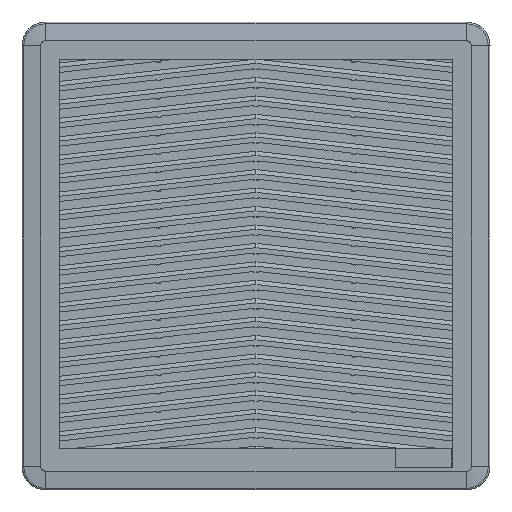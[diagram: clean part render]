
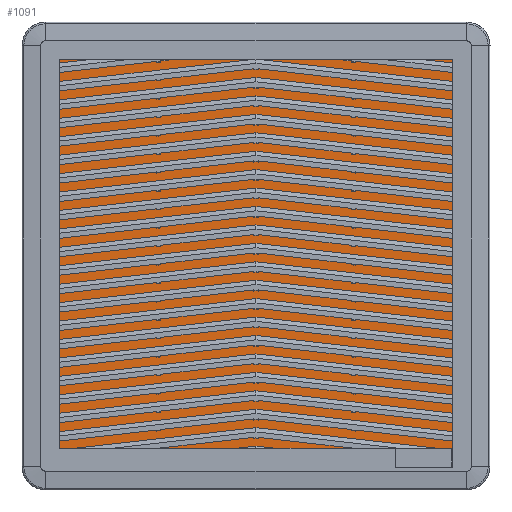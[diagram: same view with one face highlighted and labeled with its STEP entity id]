
A CAD part, front view. The second image highlights one B-rep face of the part: STEP entity #1091.
In plain terms, the highlighted planar face has unit normal (0, -1, 0) as drawn and (0, 0, 1) by its records, which use the part's own axes.
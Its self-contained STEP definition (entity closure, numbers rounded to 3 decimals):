
#277 = CARTESIAN_POINT ( 'NONE',  ( -111.96, 124.96, 6.009 ) ) ;
#774 = CARTESIAN_POINT ( 'NONE',  ( 112.04, -122.54, 6.009 ) ) ;
#1091 = ADVANCED_FACE ( 'NONE', ( #31274 ), #1894, .T. ) ;
#1564 = EDGE_CURVE ( 'NONE', #17370, #3194, #9056, .T. ) ;
#1717 = DIRECTION ( 'NONE',  ( 1., 0., 0. ) ) ;
#1894 = PLANE ( 'NONE',  #21026 ) ;
#2307 = CIRCLE ( 'NONE', #23820, 10.5 ) ;
#2817 = CARTESIAN_POINT ( 'NONE',  ( -122.46, 114.46, 6.009 ) ) ;
#3036 = DIRECTION ( 'NONE',  ( 1., 0., 0. ) ) ;
#3194 = VERTEX_POINT ( 'NONE', #2817 ) ;
#3899 = EDGE_CURVE ( 'NONE', #5496, #13216, #24442, .T. ) ;
#5378 = ORIENTED_EDGE ( 'NONE', *, *, #22058, .F. ) ;
#5496 = VERTEX_POINT ( 'NONE', #32141 ) ;
#5647 = EDGE_CURVE ( 'NONE', #28631, #7879, #28344, .T. ) ;
#5743 = CARTESIAN_POINT ( 'NONE',  ( -122.46, -112.04, 6.009 ) ) ;
#6655 = VECTOR ( 'NONE', #25499, 1000. ) ;
#6810 = CIRCLE ( 'NONE', #22229, 10.5 ) ;
#7755 = ORIENTED_EDGE ( 'NONE', *, *, #14801, .F. ) ;
#7778 = CARTESIAN_POINT ( 'NONE',  ( -111.96, 114.46, 6.009 ) ) ;
#7879 = VERTEX_POINT ( 'NONE', #19712 ) ;
#8071 = DIRECTION ( 'NONE',  ( 0., 0., -1. ) ) ;
#9056 = LINE ( 'NONE', #16507, #32108 ) ;
#10393 = DIRECTION ( 'NONE',  ( 1., 0., 0. ) ) ;
#12250 = CARTESIAN_POINT ( 'NONE',  ( 122.54, -112.04, 6.009 ) ) ;
#12839 = CARTESIAN_POINT ( 'NONE',  ( -111.96, -122.54, 6.009 ) ) ;
#13216 = VERTEX_POINT ( 'NONE', #12839 ) ;
#13660 = DIRECTION ( 'NONE',  ( 0., 0., -1. ) ) ;
#14065 = CIRCLE ( 'NONE', #32243, 10.5 ) ;
#14259 = ORIENTED_EDGE ( 'NONE', *, *, #1564, .F. ) ;
#14290 = DIRECTION ( 'NONE',  ( -1., 0., 0. ) ) ;
#14326 = LINE ( 'NONE', #12250, #6655 ) ;
#14384 = VECTOR ( 'NONE', #1717, 1000. ) ;
#14801 = EDGE_CURVE ( 'NONE', #24306, #31591, #14326, .T. ) ;
#15037 = EDGE_LOOP ( 'NONE', ( #17442, #14259, #29806, #33393, #27945, #7755, #5378, #16892 ) ) ;
#16507 = CARTESIAN_POINT ( 'NONE',  ( -122.46, -112.04, 6.009 ) ) ;
#16576 = EDGE_CURVE ( 'NONE', #31591, #5496, #6810, .T. ) ;
#16692 = DIRECTION ( 'NONE',  ( 1., 0., 0. ) ) ;
#16816 = VECTOR ( 'NONE', #14290, 1000. ) ;
#16841 = CARTESIAN_POINT ( 'NONE',  ( 122.54, 114.46, 6.009 ) ) ;
#16892 = ORIENTED_EDGE ( 'NONE', *, *, #5647, .F. ) ;
#17370 = VERTEX_POINT ( 'NONE', #5743 ) ;
#17442 = ORIENTED_EDGE ( 'NONE', *, *, #32270, .F. ) ;
#18175 = CARTESIAN_POINT ( 'NONE',  ( 0.04, -0.04, 6.009 ) ) ;
#19712 = CARTESIAN_POINT ( 'NONE',  ( 112.04, 124.96, 6.009 ) ) ;
#20400 = DIRECTION ( 'NONE',  ( 0., 0., 1. ) ) ;
#20797 = EDGE_CURVE ( 'NONE', #13216, #17370, #2307, .T. ) ;
#21018 = DIRECTION ( 'NONE',  ( 0., 0., -1. ) ) ;
#21026 = AXIS2_PLACEMENT_3D ( 'NONE', #18175, #20400, #31443 ) ;
#22058 = EDGE_CURVE ( 'NONE', #7879, #24306, #23324, .T. ) ;
#22229 = AXIS2_PLACEMENT_3D ( 'NONE', #22237, #24043, #29251 ) ;
#22237 = CARTESIAN_POINT ( 'NONE',  ( 112.04, -112.04, 6.009 ) ) ;
#23324 = CIRCLE ( 'NONE', #33252, 10.5 ) ;
#23820 = AXIS2_PLACEMENT_3D ( 'NONE', #23932, #8071, #16692 ) ;
#23932 = CARTESIAN_POINT ( 'NONE',  ( -111.96, -112.04, 6.009 ) ) ;
#24043 = DIRECTION ( 'NONE',  ( 0., 0., -1. ) ) ;
#24306 = VERTEX_POINT ( 'NONE', #16841 ) ;
#24442 = LINE ( 'NONE', #774, #16816 ) ;
#25393 = CARTESIAN_POINT ( 'NONE',  ( -111.96, 124.96, 6.009 ) ) ;
#25499 = DIRECTION ( 'NONE',  ( 0., -1., 0. ) ) ;
#27945 = ORIENTED_EDGE ( 'NONE', *, *, #16576, .F. ) ;
#28344 = LINE ( 'NONE', #25393, #14384 ) ;
#28631 = VERTEX_POINT ( 'NONE', #277 ) ;
#29251 = DIRECTION ( 'NONE',  ( 1., 0., 0. ) ) ;
#29806 = ORIENTED_EDGE ( 'NONE', *, *, #20797, .F. ) ;
#31274 = FACE_OUTER_BOUND ( 'NONE', #15037, .T. ) ;
#31390 = CARTESIAN_POINT ( 'NONE',  ( 112.04, 114.46, 6.009 ) ) ;
#31443 = DIRECTION ( 'NONE',  ( 1., 0., 0. ) ) ;
#31514 = CARTESIAN_POINT ( 'NONE',  ( 122.54, -112.04, 6.009 ) ) ;
#31591 = VERTEX_POINT ( 'NONE', #31514 ) ;
#32108 = VECTOR ( 'NONE', #32200, 1000. ) ;
#32141 = CARTESIAN_POINT ( 'NONE',  ( 112.04, -122.54, 6.009 ) ) ;
#32200 = DIRECTION ( 'NONE',  ( 0., 1., 0. ) ) ;
#32243 = AXIS2_PLACEMENT_3D ( 'NONE', #7778, #13660, #10393 ) ;
#32270 = EDGE_CURVE ( 'NONE', #3194, #28631, #14065, .T. ) ;
#33252 = AXIS2_PLACEMENT_3D ( 'NONE', #31390, #21018, #3036 ) ;
#33393 = ORIENTED_EDGE ( 'NONE', *, *, #3899, .F. ) ;
